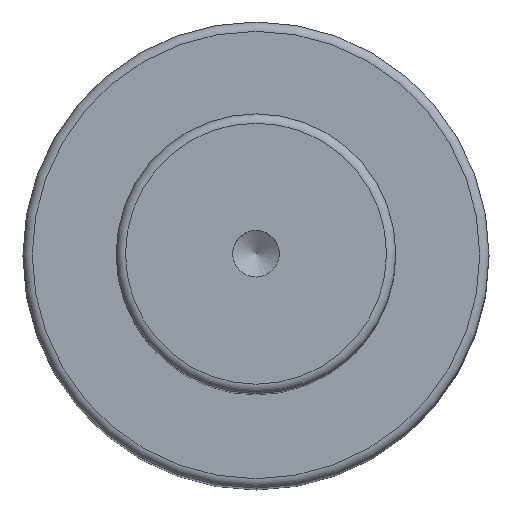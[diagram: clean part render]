
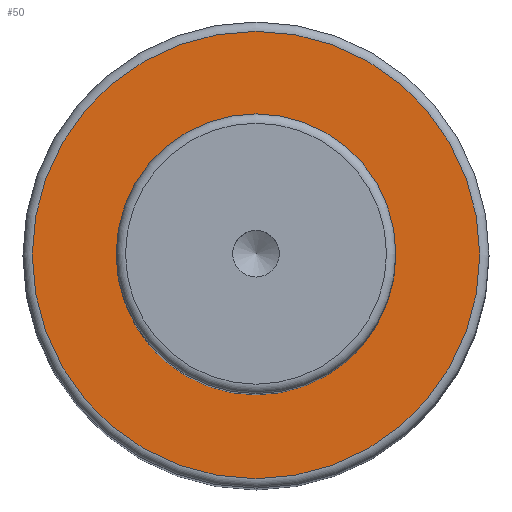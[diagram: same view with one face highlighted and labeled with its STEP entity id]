
A CAD part, top view. The second image highlights one B-rep face of the part: STEP entity #50.
In plain terms, the highlighted planar face has unit normal (0, 0, 1).
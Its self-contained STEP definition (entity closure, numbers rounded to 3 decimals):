
#40=PLANE('',#179);
#50=ADVANCED_FACE('',(#72,#73),#40,.F.);
#72=FACE_BOUND('',#96,.T.);
#73=FACE_BOUND('',#97,.T.);
#96=EDGE_LOOP('',(#118));
#97=EDGE_LOOP('',(#119));
#118=ORIENTED_EDGE('',*,*,#149,.F.);
#119=ORIENTED_EDGE('',*,*,#148,.T.);
#135=VERTEX_POINT('',#256);
#136=VERTEX_POINT('',#259);
#148=EDGE_CURVE('',#135,#135,#159,.T.);
#149=EDGE_CURVE('',#136,#136,#160,.T.);
#159=CIRCLE('',#176,15.);
#160=CIRCLE('',#178,24.);
#176=AXIS2_PLACEMENT_3D('',#255,#213,#214);
#178=AXIS2_PLACEMENT_3D('',#258,#217,#218);
#179=AXIS2_PLACEMENT_3D('',#260,#219,#220);
#213=DIRECTION('',(0.,0.,-1.));
#214=DIRECTION('',(-1.,0.,0.));
#217=DIRECTION('',(0.,0.,-1.));
#218=DIRECTION('',(-1.,0.,0.));
#219=DIRECTION('',(0.,0.,-1.));
#220=DIRECTION('',(-1.,0.,0.));
#255=CARTESIAN_POINT('',(0.,0.,119.));
#256=CARTESIAN_POINT('',(-15.,0.,119.));
#258=CARTESIAN_POINT('',(0.,0.,119.));
#259=CARTESIAN_POINT('',(-24.,0.,119.));
#260=CARTESIAN_POINT('',(15.,0.,119.));
